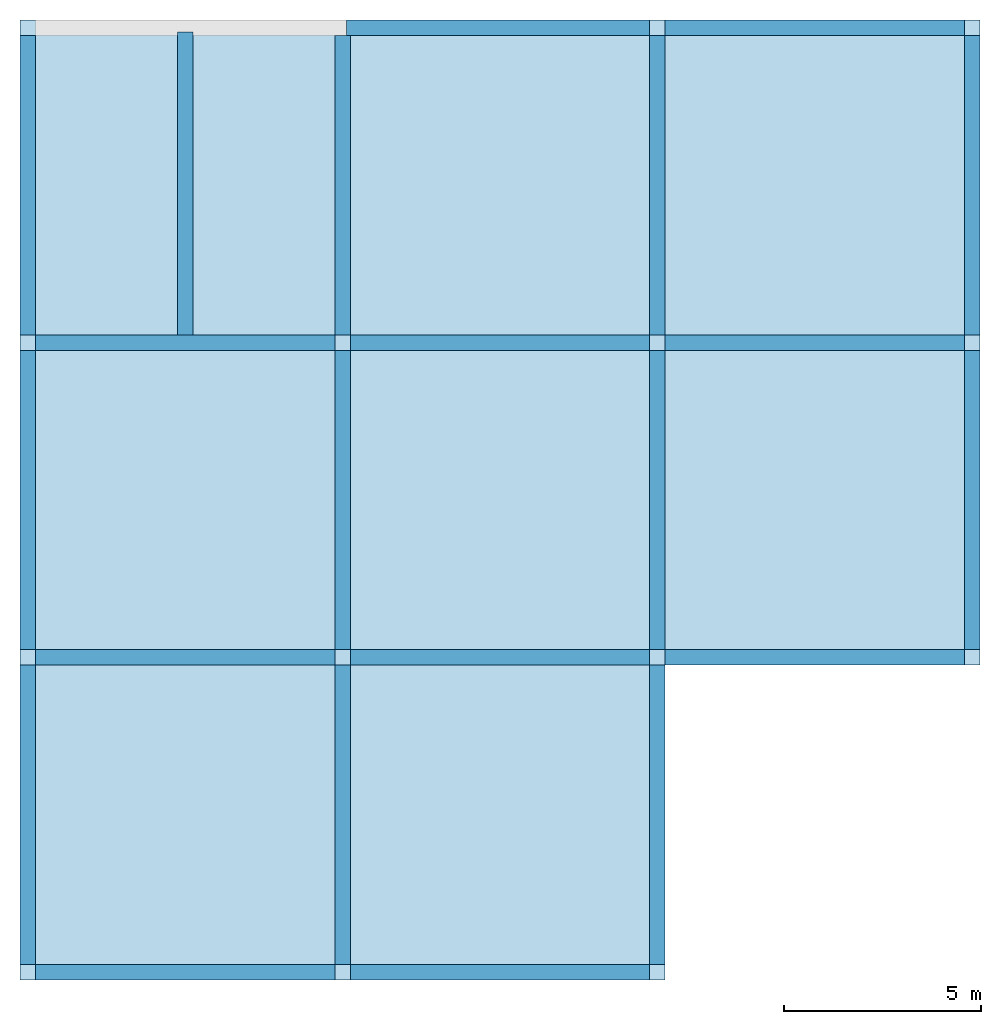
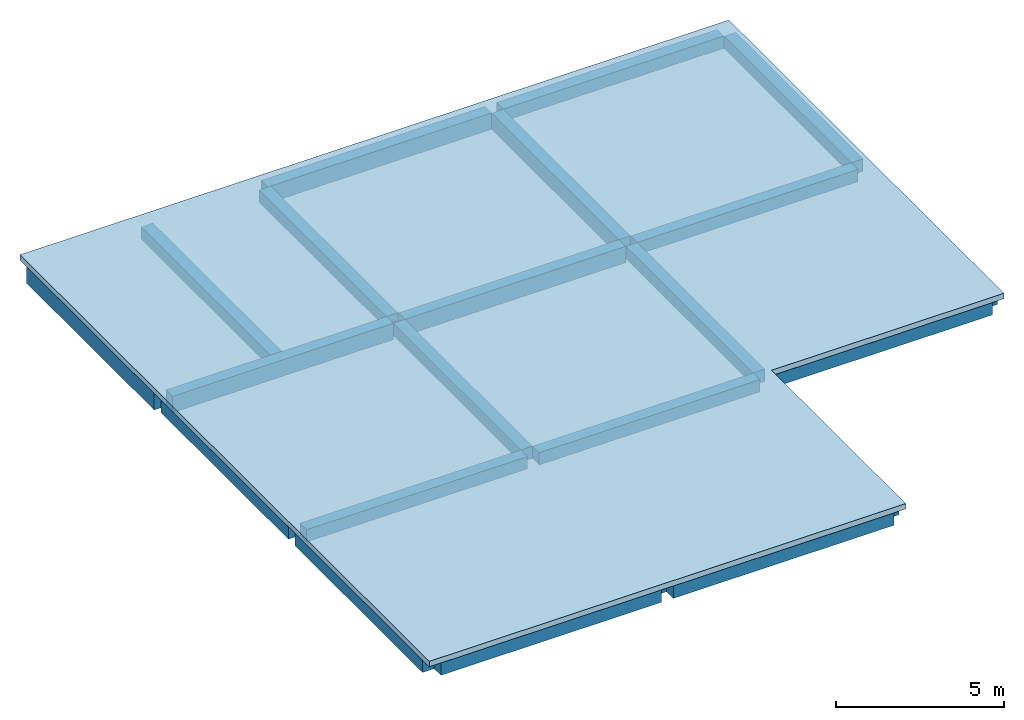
# One storey, part 1 of 2: 22 beams, 1 slab.
"""IFC4X3_ADD2 building model written with IfcOpenShell, lengths in millimetres."""

from ifc_helpers import new_model, entity, si_unit, converted_unit, derived_unit, direction, frame, frame_2d, origin, place, context, subcontext, project, spatial, polyline, rectangle, outline, extrude, source, transform, mapped, material, layer, layer_set, layer_usage, material_profile, profile_set, type_object, type_shapes, element, save


model = new_model("IFC4X3_ADD2")

# Units and contexts
model_context = context("Model", 3, precision=0.01, world=origin(), true_north=direction((6.123233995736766e-17, 1.0)))
plan_context = context("Plan", 3, precision=0.01, world=origin(), true_north=direction((6.123233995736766e-17, 1.0)))
body_context = subcontext(model_context, "Body", "Model", "MODEL_VIEW")
ifc_project = project(units=[si_unit("LENGTHUNIT", "METRE", prefix="MILLI"), converted_unit("PLANEANGLEUNIT", "DEGREE", entity("IfcPlaneAngleMeasure", 0.017453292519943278), si_unit("PLANEANGLEUNIT", "RADIAN"), dimensions=[0, 0, 0, 0, 0, 0, 0]), si_unit("AREAUNIT", "SQUARE_METRE"), si_unit("VOLUMEUNIT", "CUBIC_METRE"), derived_unit("THERMALTRANSMITTANCEUNIT", [(si_unit("MASSUNIT", "GRAM", prefix="KILO"), 1), (si_unit("THERMODYNAMICTEMPERATUREUNIT", "KELVIN"), -1), (si_unit("TIMEUNIT", "SECOND"), -3)]), derived_unit("USERDEFINED", [(si_unit("MASSUNIT", "GRAM", prefix="KILO"), 1), (si_unit("THERMODYNAMICTEMPERATUREUNIT", "KELVIN"), -1), (si_unit("TIMEUNIT", "SECOND"), -2)]), derived_unit("THERMALRESISTANCEUNIT", [(si_unit("MASSUNIT", "GRAM", prefix="KILO"), -1), (si_unit("TIMEUNIT", "SECOND"), 3), (si_unit("THERMODYNAMICTEMPERATUREUNIT", "KELVIN"), 1)]), si_unit("PRESSUREUNIT", "PASCAL"), derived_unit("MASSDENSITYUNIT", [(si_unit("MASSUNIT", "GRAM", prefix="KILO"), 1), (si_unit("LENGTHUNIT", "METRE"), -3)]), derived_unit("MODULUSOFELASTICITYUNIT", [(si_unit("MASSUNIT", "GRAM", prefix="KILO"), 1), (si_unit("TIMEUNIT", "SECOND"), -2), (si_unit("LENGTHUNIT", "METRE"), -1)]), derived_unit("THERMALEXPANSIONCOEFFICIENTUNIT", [(si_unit("THERMODYNAMICTEMPERATUREUNIT", "KELVIN"), -1)]), derived_unit("VAPORPERMEABILITYUNIT", [(si_unit("LENGTHUNIT", "METRE"), -1), (si_unit("TIMEUNIT", "SECOND"), 1)]), derived_unit("USERDEFINED", [(si_unit("MASSUNIT", "GRAM", prefix="KILO"), 1), (si_unit("TIMEUNIT", "SECOND"), -3), (si_unit("LENGTHUNIT", "METRE"), 3), (si_unit("ELECTRICCURRENTUNIT", "AMPERE"), -2)]), derived_unit("SPECIFICHEATCAPACITYUNIT", [(si_unit("THERMODYNAMICTEMPERATUREUNIT", "KELVIN"), -1), (si_unit("TIMEUNIT", "SECOND"), -2), (si_unit("LENGTHUNIT", "METRE"), 2)]), derived_unit("THERMALCONDUCTANCEUNIT", [(si_unit("MASSUNIT", "GRAM", prefix="KILO"), 1), (si_unit("THERMODYNAMICTEMPERATUREUNIT", "KELVIN"), -1), (si_unit("TIMEUNIT", "SECOND"), -3), (si_unit("LENGTHUNIT", "METRE"), 1)])], contexts=[model_context, plan_context])

# Site, building, storey
site_placement = place(None, origin())
site = spatial("IfcSite", under=ifc_project, at=site_placement, Name="Default", CompositionType="ELEMENT")
building_placement = place(site_placement, origin())
building = spatial("IfcBuilding", under=site, at=building_placement, Name="Building Name", CompositionType="ELEMENT")
storey_placement = place(building_placement, frame((0.0, 0.0, 16000.0)))
storey = spatial("IfcBuildingStorey", under=building, at=storey_placement, Name="L5", CompositionType="ELEMENT", Elevation=16000.000000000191)

# Beams
ifc_material_1 = material(Name="Concrete - Cast-in-Place Concrete", Category="Concrete")
ifc_material_profile_1 = material_profile(ifc_material_1, rectangle(XDim=600.0, YDim=400.0000000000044, at=frame_2d((-1.0942358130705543e-12, 2.842170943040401e-14), x_axis=(0.0, 1.0))), Name="400 x 600mm")
ifc_profile_set_1 = profile_set([ifc_material_profile_1], Name="400 x 600mm")
beam_type_1 = type_object("IfcBeamType", Name="Concrete - Rectangular Beam:400 x 600mm", PredefinedType="BEAM", material=ifc_profile_set_1)
shared_shape_1 = source(origin(), body_context, "Body", "SweptSolid", [
    extrude(rectangle(XDim=600.0, YDim=400.00000000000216, at=frame_2d((-1.0942358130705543e-12, 1.0800249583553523e-12), x_axis=(0.0, 1.0))), frame((-12967.95123677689, 11896.696870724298, 15500.0), z_axis=(0.0, -1.0, 0.0), x_axis=(-1.0, 0.0, 0.0)), (0.0, 0.0, 1.0), 7600.000000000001),
])
type_shapes(beam_type_1, [shared_shape_1])
beam_1_placement = place(storey_placement, frame((0.0, 0.0, -16000.0)))
element("IfcBeam", 1, at=beam_1_placement, inside=storey, type_object=beam_type_1, Name="Concrete - Rectangular Beam:400 x 600mm", ObjectType="Concrete - Rectangular Beam:400 x 600mm", PredefinedType="BEAM", context=body_context, shape_type="MappedRepresentation", body=[
    mapped(shared_shape_1, transform((0.0, 0.0, 0.0), scale=1.0)),
])
ifc_material_profile_2 = material_profile(ifc_material_1, rectangle(XDim=450.0, YDim=400.00000000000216, at=frame_2d((-1.0942358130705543e-12, 2.7000623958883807e-13), x_axis=(0.0, 1.0))), Name="400 x 450mm")
ifc_profile_set_2 = profile_set([ifc_material_profile_2], Name="400 x 450mm")
beam_type_2 = type_object("IfcBeamType", Name="Concrete - Rectangular Beam:400 x 450mm", PredefinedType="BEAM", material=ifc_profile_set_2)
shared_shape_2 = source(origin(), body_context, "Body", "SweptSolid", [
    extrude(rectangle(XDim=449.9999999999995, YDim=400.00000000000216, at=frame_2d((-1.0942358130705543e-12, 1.0800249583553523e-12), x_axis=(0.0, 1.0))), frame((-12967.951236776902, 3896.696870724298, 15575.0), z_axis=(0.0, -1.0, 0.0), x_axis=(-1.0, 0.0, 0.0)), (0.0, 0.0, 1.0), 7600.000000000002),
])
type_shapes(beam_type_2, [shared_shape_2])
beam_2_placement = place(storey_placement, frame((0.0, 0.0, -16000.0)))
element("IfcBeam", 2, at=beam_2_placement, inside=storey, type_object=beam_type_2, Name="Concrete - Rectangular Beam:400 x 450mm", ObjectType="Concrete - Rectangular Beam:400 x 450mm", PredefinedType="BEAM", context=body_context, shape_type="MappedRepresentation", body=[
    mapped(shared_shape_2, transform((0.0, 0.0, 0.0), scale=1.0)),
])
beam_type_3 = type_object("IfcBeamType", Name="Concrete - Rectangular Beam:400 x 450mm", PredefinedType="BEAM", material=ifc_profile_set_2)
shared_shape_3 = source(origin(), body_context, "Body", "SweptSolid", [
    extrude(rectangle(XDim=449.9999999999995, YDim=400.00000000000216, at=frame_2d((-1.0942358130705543e-12, 1.0800249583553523e-12), x_axis=(0.0, 1.0))), frame((-12967.951236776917, -4103.303129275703, 15575.0), z_axis=(0.0, -1.0, 0.0), x_axis=(-1.0, 0.0, 0.0)), (0.0, 0.0, 1.0), 7600.000000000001),
])
type_shapes(beam_type_3, [shared_shape_3])
beam_3_placement = place(storey_placement, frame((0.0, 0.0, -16000.0)))
element("IfcBeam", 3, at=beam_3_placement, inside=storey, type_object=beam_type_3, Name="Concrete - Rectangular Beam:400 x 450mm", ObjectType="Concrete - Rectangular Beam:400 x 450mm", PredefinedType="BEAM", context=body_context, shape_type="MappedRepresentation", body=[
    mapped(shared_shape_3, transform((0.0, 0.0, 0.0), scale=1.0)),
])
beam_type_4 = type_object("IfcBeamType", Name="Concrete - Rectangular Beam:400 x 450mm", PredefinedType="BEAM", material=ifc_profile_set_2)
shared_shape_4 = source(origin(), body_context, "Body", "SweptSolid", [
    extrude(rectangle(XDim=449.9999999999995, YDim=400.0000000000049, at=frame_2d((2.7000623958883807e-13, 1.0800249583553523e-12), x_axis=(0.0, 1.0))), frame((-4967.951236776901, 3896.6968707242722, 15575.0), z_axis=(0.0, -1.0, 0.0), x_axis=(-1.0, 0.0, 0.0)), (0.0, 0.0, 1.0), 7600.000000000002),
])
type_shapes(beam_type_4, [shared_shape_4])
beam_4_placement = place(storey_placement, frame((0.0, 0.0, -16000.0)))
element("IfcBeam", 4, at=beam_4_placement, inside=storey, type_object=beam_type_4, Name="Concrete - Rectangular Beam:400 x 450mm", ObjectType="Concrete - Rectangular Beam:400 x 450mm", PredefinedType="BEAM", context=body_context, shape_type="MappedRepresentation", body=[
    mapped(shared_shape_4, transform((0.0, 0.0, 0.0), scale=1.0)),
])
beam_type_5 = type_object("IfcBeamType", Name="Concrete - Rectangular Beam:400 x 450mm", PredefinedType="BEAM", material=ifc_profile_set_2)
shared_shape_5 = source(origin(), body_context, "Body", "SweptSolid", [
    extrude(rectangle(XDim=449.9999999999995, YDim=400.0000000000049, at=frame_2d((2.7000623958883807e-13, 1.0800249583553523e-12), x_axis=(0.0, 1.0))), frame((-4967.951236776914, -4103.303129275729, 15575.0), z_axis=(0.0, -1.0, 0.0), x_axis=(-1.0, 0.0, 0.0)), (0.0, 0.0, 1.0), 7600.000000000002),
])
type_shapes(beam_type_5, [shared_shape_5])
beam_5_placement = place(storey_placement, frame((0.0, 0.0, -16000.0)))
element("IfcBeam", 5, at=beam_5_placement, inside=storey, type_object=beam_type_5, Name="Concrete - Rectangular Beam:400 x 450mm", ObjectType="Concrete - Rectangular Beam:400 x 450mm", PredefinedType="BEAM", context=body_context, shape_type="MappedRepresentation", body=[
    mapped(shared_shape_5, transform((0.0, 0.0, 0.0), scale=1.0)),
])
beam_type_6 = type_object("IfcBeamType", Name="Concrete - Rectangular Beam:400 x 600mm", PredefinedType="BEAM", material=ifc_profile_set_1)
shared_shape_6 = source(origin(), body_context, "Body", "SweptSolid", [
    extrude(rectangle(XDim=600.0, YDim=400.0000000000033, at=frame_2d((-5.400124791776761e-13, 1.0800249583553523e-12), x_axis=(0.0, 1.0))), frame((3032.0487632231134, 11896.696870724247, 15500.0), z_axis=(0.0, -1.0, 0.0), x_axis=(-1.0, 0.0, 0.0)), (0.0, 0.0, 1.0), 7600.000000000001),
])
type_shapes(beam_type_6, [shared_shape_6])
beam_6_placement = place(storey_placement, frame((0.0, 0.0, -16000.0)))
element("IfcBeam", 6, at=beam_6_placement, inside=storey, type_object=beam_type_6, Name="Concrete - Rectangular Beam:400 x 600mm", ObjectType="Concrete - Rectangular Beam:400 x 600mm", PredefinedType="BEAM", context=body_context, shape_type="MappedRepresentation", body=[
    mapped(shared_shape_6, transform((0.0, 0.0, 0.0), scale=1.0)),
])
beam_type_7 = type_object("IfcBeamType", Name="Concrete - Rectangular Beam:400 x 450mm", PredefinedType="BEAM", material=ifc_profile_set_2)
shared_shape_7 = source(origin(), body_context, "Body", "SweptSolid", [
    extrude(rectangle(XDim=449.9999999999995, YDim=400.00000000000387, at=frame_2d((-5.400124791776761e-13, 1.0800249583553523e-12), x_axis=(0.0, 1.0))), frame((3032.0487632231, 3896.6968707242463, 15575.0), z_axis=(0.0, -1.0, 0.0), x_axis=(-1.0, 0.0, 0.0)), (0.0, 0.0, 1.0), 7600.000000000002),
])
type_shapes(beam_type_7, [shared_shape_7])
beam_7_placement = place(storey_placement, frame((0.0, 0.0, -16000.0)))
element("IfcBeam", 7, at=beam_7_placement, inside=storey, type_object=beam_type_7, Name="Concrete - Rectangular Beam:400 x 450mm", ObjectType="Concrete - Rectangular Beam:400 x 450mm", PredefinedType="BEAM", context=body_context, shape_type="MappedRepresentation", body=[
    mapped(shared_shape_7, transform((0.0, 0.0, 0.0), scale=1.0)),
])
beam_type_8 = type_object("IfcBeamType", Name="Concrete - Rectangular Beam:400 x 450mm", PredefinedType="BEAM", material=ifc_profile_set_2)
shared_shape_8 = source(origin(), body_context, "Body", "SweptSolid", [
    extrude(rectangle(XDim=449.9999999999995, YDim=400.00000000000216, at=frame_2d((-1.0942358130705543e-12, 1.0800249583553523e-12), x_axis=(0.0, 1.0))), frame((11032.048763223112, 11896.696870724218, 15575.0), z_axis=(0.0, -1.0, 0.0), x_axis=(-1.0, 0.0, 0.0)), (0.0, 0.0, 1.0), 7599.999999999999),
])
type_shapes(beam_type_8, [shared_shape_8])
beam_8_placement = place(storey_placement, frame((0.0, 0.0, -16000.0)))
element("IfcBeam", 8, at=beam_8_placement, inside=storey, type_object=beam_type_8, Name="Concrete - Rectangular Beam:400 x 450mm", ObjectType="Concrete - Rectangular Beam:400 x 450mm", PredefinedType="BEAM", context=body_context, shape_type="MappedRepresentation", body=[
    mapped(shared_shape_8, transform((0.0, 0.0, 0.0), scale=1.0)),
])
beam_type_9 = type_object("IfcBeamType", Name="Concrete - Rectangular Beam:400 x 450mm", PredefinedType="BEAM", material=ifc_profile_set_2)
shared_shape_9 = source(origin(), body_context, "Body", "SweptSolid", [
    extrude(rectangle(XDim=449.9999999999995, YDim=400.00000000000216, at=frame_2d((-1.0942358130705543e-12, 1.0800249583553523e-12), x_axis=(0.0, 1.0))), frame((11032.048763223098, 3896.6968707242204, 15575.0), z_axis=(0.0, -1.0, 0.0), x_axis=(-1.0, 0.0, 0.0)), (0.0, 0.0, 1.0), 7600.000000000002),
])
type_shapes(beam_type_9, [shared_shape_9])
beam_9_placement = place(storey_placement, frame((0.0, 0.0, -16000.0)))
element("IfcBeam", 9, at=beam_9_placement, inside=storey, type_object=beam_type_9, Name="Concrete - Rectangular Beam:400 x 450mm", ObjectType="Concrete - Rectangular Beam:400 x 450mm", PredefinedType="BEAM", context=body_context, shape_type="MappedRepresentation", body=[
    mapped(shared_shape_9, transform((0.0, 0.0, 0.0), scale=1.0)),
])
beam_type_10 = type_object("IfcBeamType", Name="Concrete - Rectangular Beam:400 x 450mm", PredefinedType="BEAM", material=ifc_profile_set_2)
shared_shape_10 = source(origin(), body_context, "Body", "SweptSolid", [
    extrude(rectangle(XDim=449.9999999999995, YDim=400.0000000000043, at=frame_2d((1.0800249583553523e-12, -1.0800249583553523e-12), x_axis=(1.0, 0.0))), frame((3232.0487632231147, 12096.696870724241, 15575.0), z_axis=(1.0, 0.0, 0.0), x_axis=(0.0, 0.0, -1.0)), (0.0, 0.0, 1.0), 7600.000000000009),
])
type_shapes(beam_type_10, [shared_shape_10])
beam_10_placement = place(storey_placement, frame((0.0, 0.0, -16000.0)))
element("IfcBeam", 10, at=beam_10_placement, inside=storey, type_object=beam_type_10, Name="Concrete - Rectangular Beam:400 x 450mm", ObjectType="Concrete - Rectangular Beam:400 x 450mm", PredefinedType="BEAM", context=body_context, shape_type="MappedRepresentation", body=[
    mapped(shared_shape_10, transform((0.0, 0.0, 0.0), scale=1.0)),
])
beam_type_11 = type_object("IfcBeamType", Name="Concrete - Rectangular Beam:400 x 450mm", PredefinedType="BEAM", material=ifc_profile_set_2)
shared_shape_11 = source(origin(), body_context, "Body", "SweptSolid", [
    extrude(rectangle(XDim=449.9999999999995, YDim=400.0000000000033, at=frame_2d((1.0800249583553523e-12, 0.0), x_axis=(1.0, 0.0))), frame((3232.048763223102, 4096.696870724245, 15575.0), z_axis=(1.0, 0.0, 0.0), x_axis=(0.0, 0.0, -1.0)), (0.0, 0.0, 1.0), 7600.000000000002),
])
type_shapes(beam_type_11, [shared_shape_11])
beam_11_placement = place(storey_placement, frame((0.0, 0.0, -16000.0)))
element("IfcBeam", 11, at=beam_11_placement, inside=storey, type_object=beam_type_11, Name="Concrete - Rectangular Beam:400 x 450mm", ObjectType="Concrete - Rectangular Beam:400 x 450mm", PredefinedType="BEAM", context=body_context, shape_type="MappedRepresentation", body=[
    mapped(shared_shape_11, transform((0.0, 0.0, 0.0), scale=1.0)),
])
beam_type_12 = type_object("IfcBeamType", Name="Concrete - Rectangular Beam:400 x 450mm", PredefinedType="BEAM", material=ifc_profile_set_2)
shared_shape_12 = source(origin(), body_context, "Body", "SweptSolid", [
    extrude(rectangle(XDim=449.9999999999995, YDim=400.0000000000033, at=frame_2d((1.0800249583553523e-12, 0.0), x_axis=(1.0, 0.0))), frame((3232.048763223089, -3903.303129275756, 15575.0), z_axis=(1.0, 0.0, 0.0), x_axis=(0.0, 0.0, -1.0)), (0.0, 0.0, 1.0), 7600.000000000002),
])
type_shapes(beam_type_12, [shared_shape_12])
beam_12_placement = place(storey_placement, frame((0.0, 0.0, -16000.0)))
element("IfcBeam", 12, at=beam_12_placement, inside=storey, type_object=beam_type_12, Name="Concrete - Rectangular Beam:400 x 450mm", ObjectType="Concrete - Rectangular Beam:400 x 450mm", PredefinedType="BEAM", context=body_context, shape_type="MappedRepresentation", body=[
    mapped(shared_shape_12, transform((0.0, 0.0, 0.0), scale=1.0)),
])
beam_type_13 = type_object("IfcBeamType", Name="Concrete - Rectangular Beam:400 x 450mm", PredefinedType="BEAM", material=ifc_profile_set_2)
shared_shape_13 = source(origin(), body_context, "Body", "SweptSolid", [
    extrude(rectangle(XDim=449.9999999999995, YDim=400.0000000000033, at=frame_2d((1.0800249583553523e-12, 0.0), x_axis=(1.0, 0.0))), frame((-12767.951236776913, -3903.3031292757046, 15575.0), z_axis=(1.0, 0.0, 0.0), x_axis=(0.0, 0.0, -1.0)), (0.0, 0.0, 1.0), 7600.000000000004),
])
type_shapes(beam_type_13, [shared_shape_13])
beam_13_placement = place(storey_placement, frame((0.0, 0.0, -16000.0)))
element("IfcBeam", 13, at=beam_13_placement, inside=storey, type_object=beam_type_13, Name="Concrete - Rectangular Beam:400 x 450mm", ObjectType="Concrete - Rectangular Beam:400 x 450mm", PredefinedType="BEAM", context=body_context, shape_type="MappedRepresentation", body=[
    mapped(shared_shape_13, transform((0.0, 0.0, 0.0), scale=1.0)),
])
beam_type_14 = type_object("IfcBeamType", Name="Concrete - Rectangular Beam:400 x 450mm", PredefinedType="BEAM", material=ifc_profile_set_2)
shared_shape_14 = source(origin(), body_context, "Body", "SweptSolid", [
    extrude(rectangle(XDim=449.9999999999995, YDim=400.00000000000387, at=frame_2d((1.0800249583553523e-12, -2.7000623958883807e-13), x_axis=(1.0, 0.0))), frame((-4767.951236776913, -3903.3031292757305, 15575.0), z_axis=(1.0, 0.0, 0.0), x_axis=(0.0, 0.0, -1.0)), (0.0, 0.0, 1.0), 7600.000000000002),
])
type_shapes(beam_type_14, [shared_shape_14])
beam_14_placement = place(storey_placement, frame((0.0, 0.0, -16000.0)))
element("IfcBeam", 14, at=beam_14_placement, inside=storey, type_object=beam_type_14, Name="Concrete - Rectangular Beam:400 x 450mm", ObjectType="Concrete - Rectangular Beam:400 x 450mm", PredefinedType="BEAM", context=body_context, shape_type="MappedRepresentation", body=[
    mapped(shared_shape_14, transform((0.0, 0.0, 0.0), scale=1.0)),
])
beam_type_15 = type_object("IfcBeamType", Name="Concrete - Rectangular Beam:400 x 600mm", PredefinedType="BEAM", material=ifc_profile_set_1)
shared_shape_15 = source(origin(), body_context, "Body", "SweptSolid", [
    extrude(rectangle(XDim=600.0, YDim=400.0000000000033, at=frame_2d((1.0800249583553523e-12, 0.0), x_axis=(1.0, 0.0))), frame((-12767.9512367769, 4096.696870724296, 15500.0), z_axis=(1.0, 0.0, 0.0), x_axis=(0.0, 0.0, -1.0)), (0.0, 0.0, 1.0), 7600.000000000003),
])
type_shapes(beam_type_15, [shared_shape_15])
beam_15_placement = place(storey_placement, frame((0.0, 0.0, -16000.0)))
element("IfcBeam", 15, at=beam_15_placement, inside=storey, type_object=beam_type_15, Name="Concrete - Rectangular Beam:400 x 600mm", ObjectType="Concrete - Rectangular Beam:400 x 600mm", PredefinedType="BEAM", context=body_context, shape_type="MappedRepresentation", body=[
    mapped(shared_shape_15, transform((0.0, 0.0, 0.0), scale=1.0)),
])
beam_type_16 = type_object("IfcBeamType", Name="Concrete - Rectangular Beam:400 x 600mm", PredefinedType="BEAM", material=ifc_profile_set_1)
shared_shape_16 = source(origin(), body_context, "Body", "SweptSolid", [
    extrude(rectangle(XDim=600.0, YDim=400.0000000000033, at=frame_2d((1.0800249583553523e-12, 0.0), x_axis=(1.0, 0.0))), frame((-4767.951236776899, 4096.69687072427, 15500.0), z_axis=(1.0, 0.0, 0.0), x_axis=(0.0, 0.0, -1.0)), (0.0, 0.0, 1.0), 7600.000000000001),
])
type_shapes(beam_type_16, [shared_shape_16])
beam_16_placement = place(storey_placement, frame((0.0, 0.0, -16000.0)))
element("IfcBeam", 16, at=beam_16_placement, inside=storey, type_object=beam_type_16, Name="Concrete - Rectangular Beam:400 x 600mm", ObjectType="Concrete - Rectangular Beam:400 x 600mm", PredefinedType="BEAM", context=body_context, shape_type="MappedRepresentation", body=[
    mapped(shared_shape_16, transform((0.0, 0.0, 0.0), scale=1.0)),
])
beam_type_17 = type_object("IfcBeamType", Name="Concrete - Rectangular Beam:400 x 450mm", PredefinedType="BEAM", material=ifc_profile_set_2)
shared_shape_17 = source(origin(), body_context, "Body", "SweptSolid", [
    extrude(rectangle(XDim=449.9999999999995, YDim=400.0000000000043, at=frame_2d((1.0800249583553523e-12, -1.0800249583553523e-12), x_axis=(1.0, 0.0))), frame((-12767.951236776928, -11903.303129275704, 15575.0), z_axis=(1.0, 0.0, 0.0), x_axis=(0.0, 0.0, -1.0)), (0.0, 0.0, 1.0), 7600.000000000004),
])
type_shapes(beam_type_17, [shared_shape_17])
beam_17_placement = place(storey_placement, frame((0.0, 0.0, -16000.0)))
element("IfcBeam", 17, at=beam_17_placement, inside=storey, type_object=beam_type_17, Name="Concrete - Rectangular Beam:400 x 450mm", ObjectType="Concrete - Rectangular Beam:400 x 450mm", PredefinedType="BEAM", context=body_context, shape_type="MappedRepresentation", body=[
    mapped(shared_shape_17, transform((0.0, 0.0, 0.0), scale=1.0)),
])
beam_type_18 = type_object("IfcBeamType", Name="Concrete - Rectangular Beam:400 x 450mm", PredefinedType="BEAM", material=ifc_profile_set_2)
shared_shape_18 = source(origin(), body_context, "Body", "SweptSolid", [
    extrude(rectangle(XDim=449.9999999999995, YDim=400.0000000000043, at=frame_2d((1.0800249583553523e-12, -1.0800249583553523e-12), x_axis=(1.0, 0.0))), frame((-4767.951236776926, -11903.30312927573, 15575.0), z_axis=(1.0, 0.0, 0.0), x_axis=(0.0, 0.0, -1.0)), (0.0, 0.0, 1.0), 7600.000000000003),
])
type_shapes(beam_type_18, [shared_shape_18])
beam_18_placement = place(storey_placement, frame((0.0, 0.0, -16000.0)))
element("IfcBeam", 18, at=beam_18_placement, inside=storey, type_object=beam_type_18, Name="Concrete - Rectangular Beam:400 x 450mm", ObjectType="Concrete - Rectangular Beam:400 x 450mm", PredefinedType="BEAM", context=body_context, shape_type="MappedRepresentation", body=[
    mapped(shared_shape_18, transform((0.0, 0.0, 0.0), scale=1.0)),
])
beam_type_19 = type_object("IfcBeamType", Name="Concrete - Rectangular Beam:400 x 450mm", PredefinedType="BEAM", material=ifc_profile_set_2)
shared_shape_19 = source(origin(), body_context, "Body", "SweptSolid", [
    extrude(rectangle(XDim=449.9999999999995, YDim=400.0000000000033, at=frame_2d((-5.400124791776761e-13, 1.0800249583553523e-12), x_axis=(0.0, 1.0))), frame((-8967.951236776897, 4296.6968707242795, 15575.0), z_axis=(0.0, 1.0, 0.0), x_axis=(-1.0, 0.0, 0.0)), (0.0, 0.0, 1.0), 7700.000000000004),
])
type_shapes(beam_type_19, [shared_shape_19])
beam_19_placement = place(storey_placement, frame((0.0, 0.0, -16000.0)))
element("IfcBeam", 19, at=beam_19_placement, inside=storey, type_object=beam_type_19, Name="Concrete - Rectangular Beam:400 x 450mm", ObjectType="Concrete - Rectangular Beam:400 x 450mm", PredefinedType="BEAM", context=body_context, shape_type="MappedRepresentation", body=[
    mapped(shared_shape_19, transform((0.0, 0.0, 0.0), scale=1.0)),
])
beam_type_20 = type_object("IfcBeamType", Name="Concrete - Rectangular Beam:400 x 600mm", PredefinedType="BEAM", material=ifc_profile_set_1)
shared_shape_20 = source(origin(), body_context, "Body", "SweptSolid", [
    extrude(rectangle(XDim=600.0, YDim=400.00000000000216, at=frame_2d((1.0800249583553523e-12, 1.0942358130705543e-12), x_axis=(1.0, 0.0))), frame((-4867.951236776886, 12096.696870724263, 15500.0), z_axis=(1.0, 0.0, 0.0), x_axis=(0.0, 0.0, -1.0)), (0.0, 0.0, 1.0), 7700.000000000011),
])
type_shapes(beam_type_20, [shared_shape_20])
beam_20_placement = place(storey_placement, frame((0.0, 0.0, -16000.0)))
element("IfcBeam", 20, at=beam_20_placement, inside=storey, type_object=beam_type_20, Name="Concrete - Rectangular Beam:400 x 600mm", ObjectType="Concrete - Rectangular Beam:400 x 600mm", PredefinedType="BEAM", context=body_context, shape_type="MappedRepresentation", body=[
    mapped(shared_shape_20, transform((0.0, 0.0, 0.0), scale=1.0)),
])
beam_type_21 = type_object("IfcBeamType", Name="Concrete - Rectangular Beam:400 x 450mm", PredefinedType="BEAM", material=ifc_profile_set_2)
shared_shape_21 = source(origin(), body_context, "Body", "SweptSolid", [
    extrude(rectangle(XDim=449.9999999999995, YDim=400.00000000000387, at=frame_2d((-5.400124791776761e-13, 1.0800249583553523e-12), x_axis=(0.0, 1.0))), frame((3032.048763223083, -4103.303129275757, 15575.0), z_axis=(0.0, -1.0, 0.0), x_axis=(-1.0, 0.0, 0.0)), (0.0, 0.0, 1.0), 7599.999999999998),
])
type_shapes(beam_type_21, [shared_shape_21])
beam_21_placement = place(storey_placement, frame((0.0, 0.0, -16000.0)))
element("IfcBeam", 21, at=beam_21_placement, inside=storey, type_object=beam_type_21, Name="Concrete - Rectangular Beam:400 x 450mm", ObjectType="Concrete - Rectangular Beam:400 x 450mm", PredefinedType="BEAM", context=body_context, shape_type="MappedRepresentation", body=[
    mapped(shared_shape_21, transform((0.0, 0.0, 0.0), scale=1.0)),
])
beam_type_22 = type_object("IfcBeamType", Name="Concrete - Rectangular Beam:400 x 450mm", PredefinedType="BEAM", material=ifc_profile_set_2)
shared_shape_22 = source(origin(), body_context, "Body", "SweptSolid", [
    extrude(outline(polyline([(100.0, -162.4999999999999), (200.0, -162.4999999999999), (200.0, 287.4999999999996), (-200.0, 287.4999999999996), (-200.0, -162.4999999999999), (-100.0, -162.4999999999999), (-100.0, 37.5000000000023), (100.0, 37.5000000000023), (100.0, -162.4999999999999)])), frame((-4967.951236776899, 4296.69687072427, 15512.500000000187), z_axis=(0.0, 1.0, 0.0), x_axis=(-1.0, 0.0, 0.0)), (0.0, 0.0, 1.0), 7599.999999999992),
])
type_shapes(beam_type_22, [shared_shape_22])
beam_22_placement = place(storey_placement, frame((0.0, 0.0, -16000.0)))
element("IfcBeam", 22, at=beam_22_placement, inside=storey, type_object=beam_type_22, Name="Concrete - Rectangular Beam:400 x 450mm", ObjectType="Concrete - Rectangular Beam:400 x 450mm", PredefinedType="BEAM", context=body_context, shape_type="MappedRepresentation", body=[
    mapped(shared_shape_22, transform((0.0, 0.0, 0.0), scale=1.0)),
])

# Slab
ifc_material_2 = material(Name="Default Floor", Category="Miscellaneous")
ifc_layer = layer(ifc_material_2, 200.0, Name="Layer", Category="Miscellaneous")
ifc_layer_set = layer_set([ifc_layer], Name="Floor:Generic 200mm")
ifc_layer_usage = layer_usage(ifc_layer_set, "AXIS3", "POSITIVE", 0.0)
slab_type = type_object("IfcSlabType", Name="Floor:Generic 200mm", PredefinedType="FLOOR", material=ifc_layer_set)
slab_placement = place(storey_placement, origin())
element("IfcSlab", 23, at=slab_placement, inside=storey, type_object=slab_type, material=ifc_layer_usage, Name="Floor:Generic 200mm", ObjectType="Floor:Generic 200mm", PredefinedType="FLOOR", context=body_context, shape_type="SweptSolid", body=[
    extrude(outline(polyline([(-10800.0, -13600.0), (13600.0, -13600.0), (13600.0, 10800.0), (-2800.0, 10800.0), (-2800.0, 2800.0), (-10800.0, 2800.0), (-10800.0, -13600.0)])), frame((432.0487632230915, -1303.303129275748, 0.0), z_axis=(0.0, 0.0, -1.0), x_axis=(0.0, 1.0, 0.0)), (0.0, 0.0, 1.0), 200.0),
])

save(model, "model.ifc")
